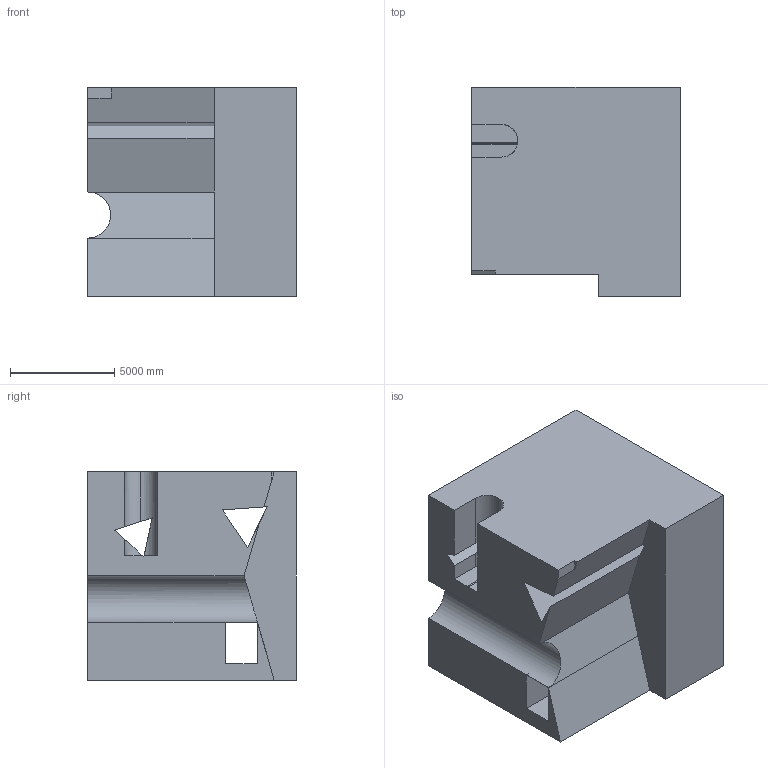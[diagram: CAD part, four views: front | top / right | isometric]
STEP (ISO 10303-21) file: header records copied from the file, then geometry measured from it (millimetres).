
FILE_DESCRIPTION (( 'STEP AP203' ), '1' );
FILE_NAME ('721.STEP', '2022-07-29T12:45:08', ( 'user' ), ( '' ), 'SwSTEP 2.0', 'SolidWorks 2021', '' );
FILE_SCHEMA (( 'CONFIG_CONTROL_DESIGN' ));
Length unit declared in the file: centimetre
Products named in the file (1): 721
Bounding box: 10000 x 10000 x 10000 mm (x, y, z)
Volume: 798140263790.1 mm3; surface area: 772274956.3 mm2
Topology: 1 solids, 1 shells, 37 faces, 111 edges, 74 vertices
Faces by surface type: plane 31, cylinder 6
Entity records: 1322 total; most frequent: CARTESIAN_POINT 244, ORIENTED_EDGE 222, DIRECTION 188, EDGE_CURVE 111, LINE 96, VECTOR 96, VERTEX_POINT 74, AXIS2_PLACEMENT_3D 46
